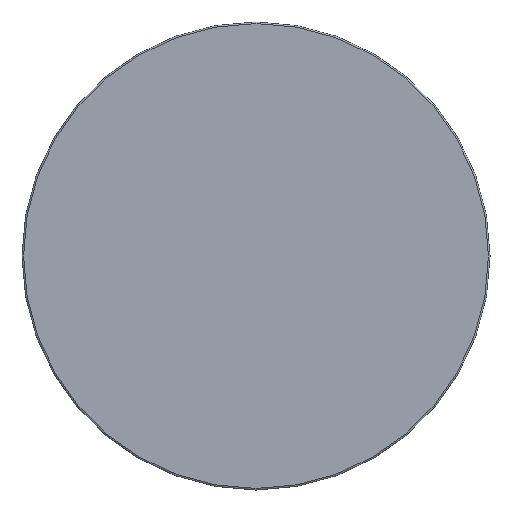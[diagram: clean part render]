
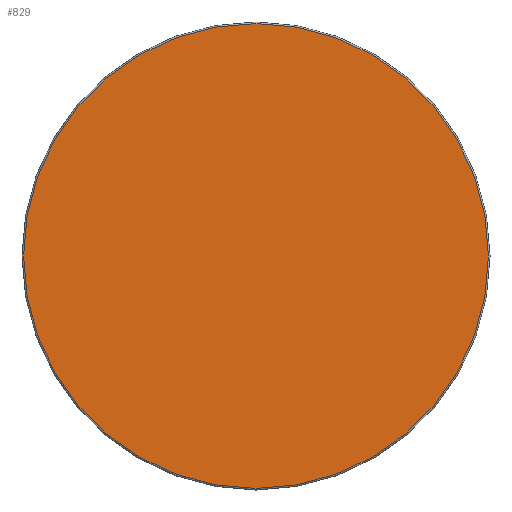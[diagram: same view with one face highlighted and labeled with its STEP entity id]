
A CAD part, left-side view. The second image highlights one B-rep face of the part: STEP entity #829.
In plain terms, the highlighted planar face has unit normal (-1, 0, 0).
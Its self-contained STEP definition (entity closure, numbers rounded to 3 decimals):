
#806=CARTESIAN_POINT('',(0.0,149.0,0.0));
#807=VERTEX_POINT('',#806);
#808=CARTESIAN_POINT('',(0.0,0.0,0.0));
#809=DIRECTION('',(1.0,0.0,0.0));
#810=DIRECTION('',(0.0,-1.0,0.0));
#811=AXIS2_PLACEMENT_3D('',#808,#809,#810);
#812=CIRCLE('',#811,149.0);
#813=EDGE_CURVE('',#807,#807,#812,.T.);
#821=CARTESIAN_POINT('',(0.0,129.5,0.));
#822=DIRECTION('',(-1.0,0.0,0.0));
#823=DIRECTION('',(0.0,0.0,1.0));
#824=AXIS2_PLACEMENT_3D('',#821,#822,#823);
#825=PLANE('',#824);
#826=ORIENTED_EDGE('',*,*,#813,.F.);
#827=EDGE_LOOP('',(#826));
#828=FACE_OUTER_BOUND('',#827,.T.);
#829=ADVANCED_FACE('',(#828),#825,.T.);
